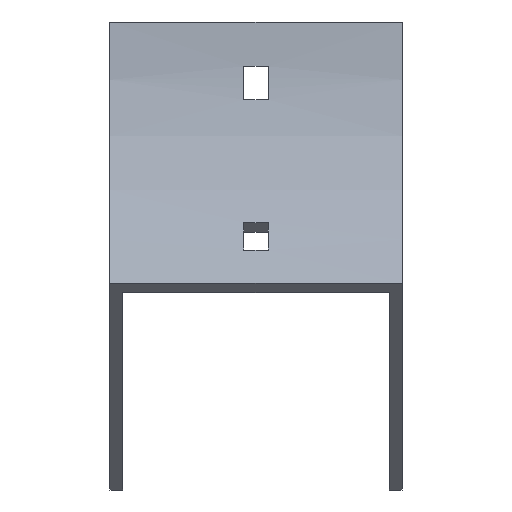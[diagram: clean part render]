
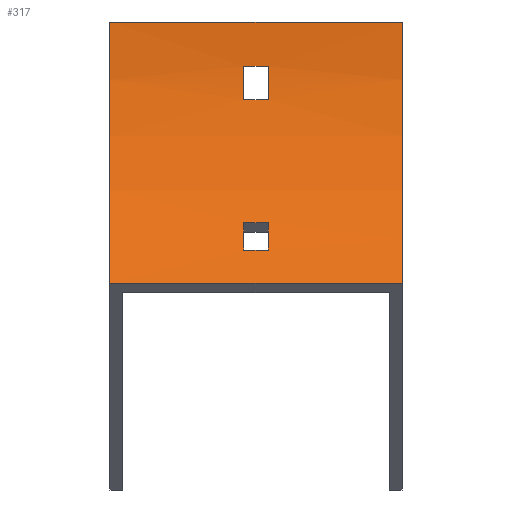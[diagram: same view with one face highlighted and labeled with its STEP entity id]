
A CAD part, front view. The second image highlights one B-rep face of the part: STEP entity #317.
In plain terms, the highlighted cylindrical face has radius 100 mm (diameter 200 mm), a partial arc.
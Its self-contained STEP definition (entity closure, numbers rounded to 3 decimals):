
#10 = DIRECTION ( 'NONE',  ( 0., 0., -1. ) ) ;
#21 = DIRECTION ( 'NONE',  ( -1., 0., 0. ) ) ;
#36 = DIRECTION ( 'NONE',  ( -1., 0., 0. ) ) ;
#48 = AXIS2_PLACEMENT_3D ( 'NONE', #676, #21, #10 ) ;
#90 = DIRECTION ( 'NONE',  ( -1., 0., 0. ) ) ;
#96 = CARTESIAN_POINT ( 'NONE',  ( 39.5, -21.315, -61.714 ) ) ;
#97 = ORIENTED_EDGE ( 'NONE', *, *, #1371, .F. ) ;
#99 = CARTESIAN_POINT ( 'NONE',  ( -3.25, -21.315, -61.714 ) ) ;
#128 = DIRECTION ( 'NONE',  ( 1., 0., 0. ) ) ;
#165 = DIRECTION ( 'NONE',  ( -1., 0., 0. ) ) ;
#180 = AXIS2_PLACEMENT_3D ( 'NONE', #1497, #1644, #1129 ) ;
#227 = ORIENTED_EDGE ( 'NONE', *, *, #1685, .T. ) ;
#229 = CARTESIAN_POINT ( 'NONE',  ( -39.5, -100., 0. ) ) ;
#245 = CARTESIAN_POINT ( 'NONE',  ( -3.25, -2.23, -21. ) ) ;
#252 = DIRECTION ( 'NONE',  ( -1., 0., 0. ) ) ;
#262 = DIRECTION ( 'NONE',  ( 1., 0., 0. ) ) ;
#292 = AXIS2_PLACEMENT_3D ( 'NONE', #1430, #252, #781 ) ;
#307 = CARTESIAN_POINT ( 'NONE',  ( -3.25, -16.017, -54.285 ) ) ;
#317 = ADVANCED_FACE ( 'NONE', ( #536, #825, #1348 ), #1327, .F. ) ;
#321 = AXIS2_PLACEMENT_3D ( 'NONE', #1317, #165, #1446 ) ;
#323 = CARTESIAN_POINT ( 'NONE',  ( 39.5, 0., 0. ) ) ;
#331 = ORIENTED_EDGE ( 'NONE', *, *, #428, .F. ) ;
#354 = AXIS2_PLACEMENT_3D ( 'NONE', #1312, #128, #1042 ) ;
#356 = EDGE_CURVE ( 'NONE', #803, #1258, #794, .T. ) ;
#367 = ORIENTED_EDGE ( 'NONE', *, *, #1156, .T. ) ;
#383 = VECTOR ( 'NONE', #1432, 1000. ) ;
#388 = ORIENTED_EDGE ( 'NONE', *, *, #928, .T. ) ;
#401 = VECTOR ( 'NONE', #723, 1000. ) ;
#428 = EDGE_CURVE ( 'NONE', #852, #697, #1251, .T. ) ;
#429 = ORIENTED_EDGE ( 'NONE', *, *, #356, .T. ) ;
#430 = VECTOR ( 'NONE', #36, 1000. ) ;
#459 = CARTESIAN_POINT ( 'NONE',  ( 3.25, -21.315, -61.714 ) ) ;
#462 = CIRCLE ( 'NONE', #354, 100. ) ;
#470 = DIRECTION ( 'NONE',  ( -1., 0., 0. ) ) ;
#489 = EDGE_CURVE ( 'NONE', #739, #889, #1608, .T. ) ;
#505 = ORIENTED_EDGE ( 'NONE', *, *, #1481, .F. ) ;
#536 = FACE_OUTER_BOUND ( 'NONE', #1130, .T. ) ;
#540 = ORIENTED_EDGE ( 'NONE', *, *, #489, .T. ) ;
#548 = CARTESIAN_POINT ( 'NONE',  ( 39.5, -0.723, -12. ) ) ;
#606 = ORIENTED_EDGE ( 'NONE', *, *, #1389, .T. ) ;
#609 = DIRECTION ( 'NONE',  ( 1., 0., 0. ) ) ;
#611 = VERTEX_POINT ( 'NONE', #888 ) ;
#676 = CARTESIAN_POINT ( 'NONE',  ( -3.25, -100., 0. ) ) ;
#687 = CARTESIAN_POINT ( 'NONE',  ( 3.25, -16.017, -54.285 ) ) ;
#697 = VERTEX_POINT ( 'NONE', #687 ) ;
#718 = VERTEX_POINT ( 'NONE', #799 ) ;
#720 = VERTEX_POINT ( 'NONE', #810 ) ;
#723 = DIRECTION ( 'NONE',  ( -1., 0., 0. ) ) ;
#728 = EDGE_LOOP ( 'NONE', ( #606, #367, #429, #227 ) ) ;
#739 = VERTEX_POINT ( 'NONE', #1052 ) ;
#740 = DIRECTION ( 'NONE',  ( 0., 0., 1. ) ) ;
#781 = DIRECTION ( 'NONE',  ( 0., 0., 1. ) ) ;
#794 = LINE ( 'NONE', #548, #1313 ) ;
#799 = CARTESIAN_POINT ( 'NONE',  ( -39.5, -29.289, -70.711 ) ) ;
#803 = VERTEX_POINT ( 'NONE', #830 ) ;
#810 = CARTESIAN_POINT ( 'NONE',  ( 3.25, -2.23, -21. ) ) ;
#825 = FACE_BOUND ( 'NONE', #728, .T. ) ;
#830 = CARTESIAN_POINT ( 'NONE',  ( -3.25, -0.723, -12. ) ) ;
#852 = VERTEX_POINT ( 'NONE', #459 ) ;
#855 = VERTEX_POINT ( 'NONE', #307 ) ;
#881 = CARTESIAN_POINT ( 'NONE',  ( 3.25, -100., 0. ) ) ;
#888 = CARTESIAN_POINT ( 'NONE',  ( 39.5, -29.289, -70.711 ) ) ;
#889 = VERTEX_POINT ( 'NONE', #1370 ) ;
#898 = CIRCLE ( 'NONE', #1197, 100. ) ;
#928 = EDGE_CURVE ( 'NONE', #889, #718, #898, .T. ) ;
#948 = LINE ( 'NONE', #1244, #430 ) ;
#970 = EDGE_CURVE ( 'NONE', #697, #855, #1395, .T. ) ;
#978 = CARTESIAN_POINT ( 'NONE',  ( 3.25, -0.723, -12. ) ) ;
#982 = DIRECTION ( 'NONE',  ( 0., 0., -1. ) ) ;
#983 = VECTOR ( 'NONE', #609, 1000. ) ;
#988 = VERTEX_POINT ( 'NONE', #245 ) ;
#1002 = LINE ( 'NONE', #96, #983 ) ;
#1004 = EDGE_LOOP ( 'NONE', ( #1484, #1180, #331, #97 ) ) ;
#1042 = DIRECTION ( 'NONE',  ( 0., 0., 1. ) ) ;
#1052 = CARTESIAN_POINT ( 'NONE',  ( 39.5, 0., 0. ) ) ;
#1129 = DIRECTION ( 'NONE',  ( 0., 0., 1. ) ) ;
#1130 = EDGE_LOOP ( 'NONE', ( #388, #1148, #505, #540 ) ) ;
#1132 = DIRECTION ( 'NONE',  ( -1., 0., 0. ) ) ;
#1148 = ORIENTED_EDGE ( 'NONE', *, *, #1321, .F. ) ;
#1151 = EDGE_CURVE ( 'NONE', #855, #1633, #1335, .T. ) ;
#1156 = EDGE_CURVE ( 'NONE', #988, #803, #462, .T. ) ;
#1180 = ORIENTED_EDGE ( 'NONE', *, *, #970, .F. ) ;
#1197 = AXIS2_PLACEMENT_3D ( 'NONE', #229, #90, #740 ) ;
#1244 = CARTESIAN_POINT ( 'NONE',  ( 39.5, -29.289, -70.711 ) ) ;
#1251 = CIRCLE ( 'NONE', #180, 100. ) ;
#1258 = VERTEX_POINT ( 'NONE', #978 ) ;
#1276 = CARTESIAN_POINT ( 'NONE',  ( 39.5, -16.017, -54.285 ) ) ;
#1283 = LINE ( 'NONE', #1391, #1367 ) ;
#1312 = CARTESIAN_POINT ( 'NONE',  ( -3.25, -100., 0. ) ) ;
#1313 = VECTOR ( 'NONE', #262, 1000. ) ;
#1317 = CARTESIAN_POINT ( 'NONE',  ( 39.5, -100., 0. ) ) ;
#1321 = EDGE_CURVE ( 'NONE', #611, #718, #948, .T. ) ;
#1327 = CYLINDRICAL_SURFACE ( 'NONE', #321, 100. ) ;
#1335 = CIRCLE ( 'NONE', #48, 100. ) ;
#1348 = FACE_BOUND ( 'NONE', #1004, .T. ) ;
#1367 = VECTOR ( 'NONE', #1132, 1000. ) ;
#1370 = CARTESIAN_POINT ( 'NONE',  ( -39.5, 0., 0. ) ) ;
#1371 = EDGE_CURVE ( 'NONE', #1633, #852, #1002, .T. ) ;
#1389 = EDGE_CURVE ( 'NONE', #720, #988, #1283, .T. ) ;
#1391 = CARTESIAN_POINT ( 'NONE',  ( 39.5, -2.23, -21. ) ) ;
#1395 = LINE ( 'NONE', #1276, #383 ) ;
#1430 = CARTESIAN_POINT ( 'NONE',  ( 39.5, -100., 0. ) ) ;
#1432 = DIRECTION ( 'NONE',  ( -1., 0., 0. ) ) ;
#1446 = DIRECTION ( 'NONE',  ( 0., 0., 1. ) ) ;
#1481 = EDGE_CURVE ( 'NONE', #739, #611, #1630, .T. ) ;
#1484 = ORIENTED_EDGE ( 'NONE', *, *, #1151, .F. ) ;
#1497 = CARTESIAN_POINT ( 'NONE',  ( 3.25, -100., 0. ) ) ;
#1503 = CIRCLE ( 'NONE', #1686, 100. ) ;
#1608 = LINE ( 'NONE', #323, #401 ) ;
#1630 = CIRCLE ( 'NONE', #292, 100. ) ;
#1633 = VERTEX_POINT ( 'NONE', #99 ) ;
#1644 = DIRECTION ( 'NONE',  ( 1., 0., 0. ) ) ;
#1685 = EDGE_CURVE ( 'NONE', #1258, #720, #1503, .T. ) ;
#1686 = AXIS2_PLACEMENT_3D ( 'NONE', #881, #470, #982 ) ;
